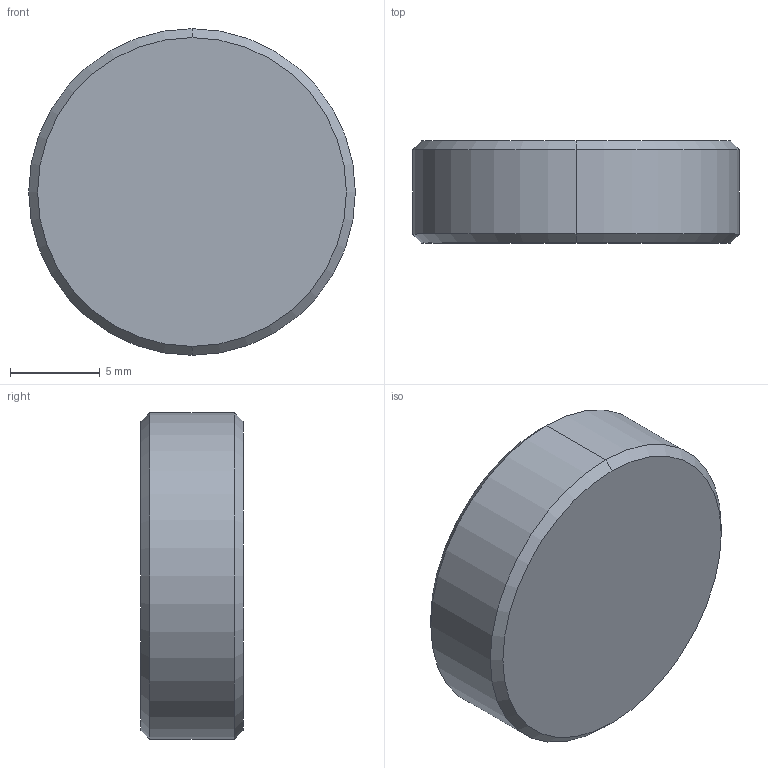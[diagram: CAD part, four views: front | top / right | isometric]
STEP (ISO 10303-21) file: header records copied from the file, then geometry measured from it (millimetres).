
FILE_DESCRIPTION (( 'STEP AP214' ), '1' );
FILE_NAME ('SPACER - GRAS MICROPHONE - COMBO SURROGATE - R10 - 10-01-24.STEP', '2024-10-02T03:21:26', ( '' ), ( '' ), 'SwSTEP 2.0', 'SolidWorks 2022', '' );
FILE_SCHEMA (( 'AUTOMOTIVE_DESIGN' ));
Length unit declared in the file: millimetre
Products named in the file (1): SPACER - GRAS MICROPHONE - COMBO SURROGATE - R10 - 10-01-24
Bounding box: 18.25 x 5.7 x 18.25 mm (x, y, z)
Volume: 1477 mm3; surface area: 815.7 mm2
Topology: 1 solids, 1 shells, 8 faces, 14 edges, 8 vertices
Faces by surface type: cone 4, cylinder 2, plane 2
Entity records: 228 total; most frequent: DIRECTION 40, CARTESIAN_POINT 31, ORIENTED_EDGE 28, AXIS2_PLACEMENT_3D 17, EDGE_CURVE 14, CIRCLE 8, EDGE_LOOP 8, VERTEX_POINT 8
